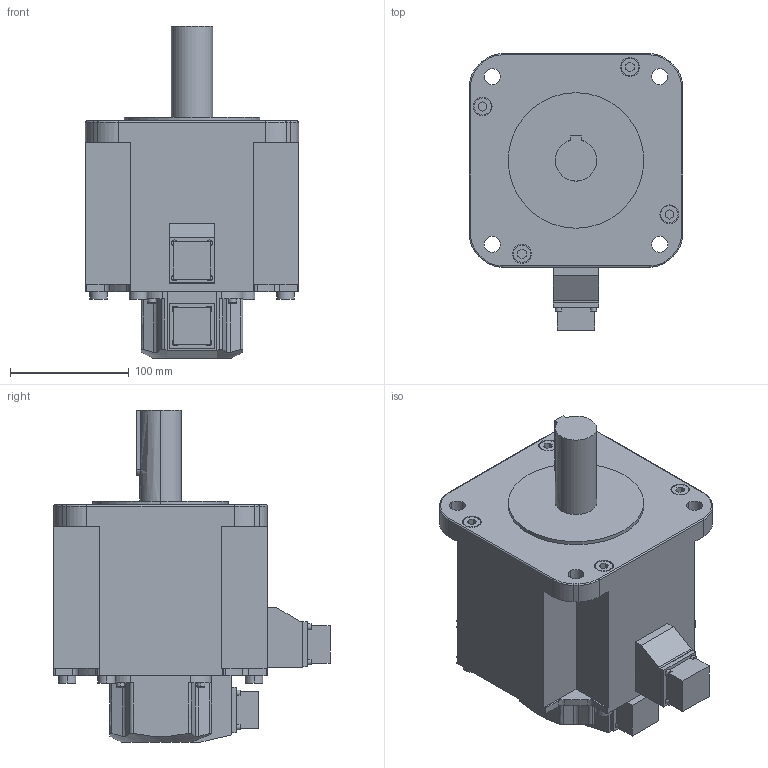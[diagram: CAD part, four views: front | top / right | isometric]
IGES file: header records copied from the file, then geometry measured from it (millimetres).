
Start section:  PTC IGES file: rsmh_20ask3.igs
Global section: file name: rsmh_20ask3.igs; native system: Pro/ENGINEER by Parametric Technology Corporation; preprocessor: 2004440; author: Administrator; organization: Unknown; date: 070829.192716; units: millimetre
Bounding box: 180 x 233 x 280 mm (x, y, z)
Volume: 4518951.5 mm3; surface area: 213156.5 mm2
Topology: 1 solids, 1 shells, 290 faces, 744 edges, 488 vertices
Faces by surface type: bspline 164, revolution 126
